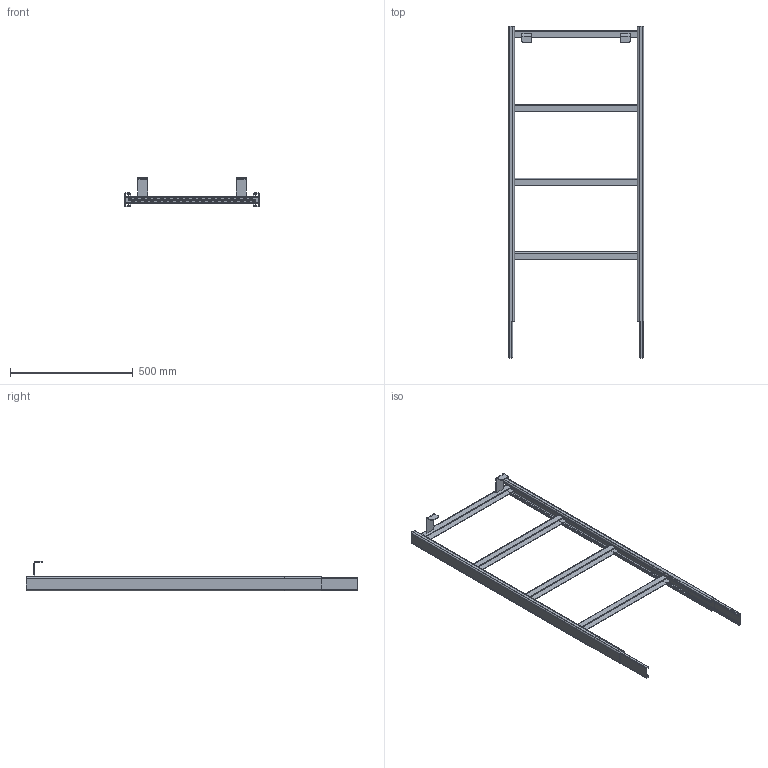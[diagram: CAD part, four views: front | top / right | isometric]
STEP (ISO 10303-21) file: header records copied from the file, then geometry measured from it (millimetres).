
FILE_DESCRIPTION((''),'2;1');
FILE_NAME('105353-600','2018-11-27T',('stat'),('HUBER SE'),'PRO/ENGINEER BY PARAMETRIC TECHNOLOGY CORPORATION, 2017170','PRO/ENGINEER BY PARAMETRIC TECHNOLOGY CORPORATION, 2017170','');
FILE_SCHEMA(('AUTOMOTIVE_DESIGN { 1 0 10303 214 1 1 1 1 }'));
Length unit declared in the file: millimetre
Products named in the file (1): 105353-600
Bounding box: 550 x 1350 x 121.5 mm (x, y, z)
Volume: 1153805.1 mm3; surface area: 998526.4 mm2
Topology: 6 solids, 6 shells, 1684 faces, 3760 edges, 2252 vertices
Faces by surface type: cone 640, torus 640, plane 344, cylinder 60
Entity records: 48499 total; most frequent: DIRECTION 9833, CARTESIAN_POINT 7707, ORIENTED_EDGE 7520, AXIS2_PLACEMENT_3D 4381, EDGE_CURVE 3760, CIRCLE 2692, VERTEX_POINT 2252, EDGE_LOOP 2168
